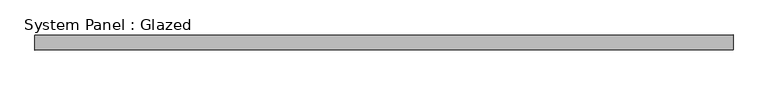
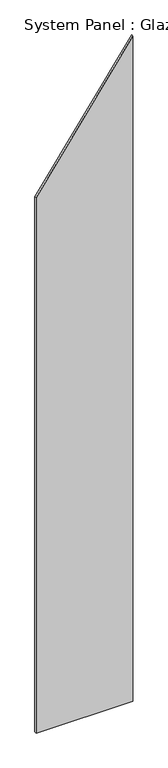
"""IFC4 building model written with IfcOpenShell, lengths in millimetres: plate geometry, System Panel : Glazed."""

from ifc_helpers import new_model, si_unit, frame, origin, place, context, project, spatial, polyline, outline, extrude, source, transform, mapped, element, save


def system_panel_glazed_6cebac1c(model_context):
    return source(origin(), model_context, "Body", "SweptSolid", [
        extrude(outline(polyline([(0.0, -583.8214844), (0.0, 583.8214844), (8494.1962433, 583.8214844), (6838.3924866, -583.8214844), (0.0, -583.8214844)])), frame((0.0, -12.5, 0.0), z_axis=(0.0, 1.0, 0.0), x_axis=(0.0, 0.0, 1.0)), (0.0, 0.0, 1.0), 25.0),
    ])


if __name__ == "__main__":
    model = new_model("IFC4")
    model_context = context("Model", 3, world=origin())
    ifc_project = project(units=[si_unit("LENGTHUNIT", "METRE", prefix="MILLI")], contexts=[model_context])
    site = spatial("IfcSite", under=ifc_project)
    building = spatial("IfcBuilding", under=site)
    placement = place(None, origin())
    system_panel_glazed_shape = system_panel_glazed_6cebac1c(model_context)
    element("IfcPlate", 1, ObjectType="System Panel : Glazed", at=placement, inside=building, context=model_context, shape_type="MappedRepresentation", body=[
        mapped(system_panel_glazed_shape, transform((0.0, 0.0, 0.0), x_axis=(1.0, 0.0, 0.0), y_axis=(0.0, 1.0, 0.0), z_axis=(0.0, 0.0, 1.0))),
    ])
    save(model, "model.ifc")
